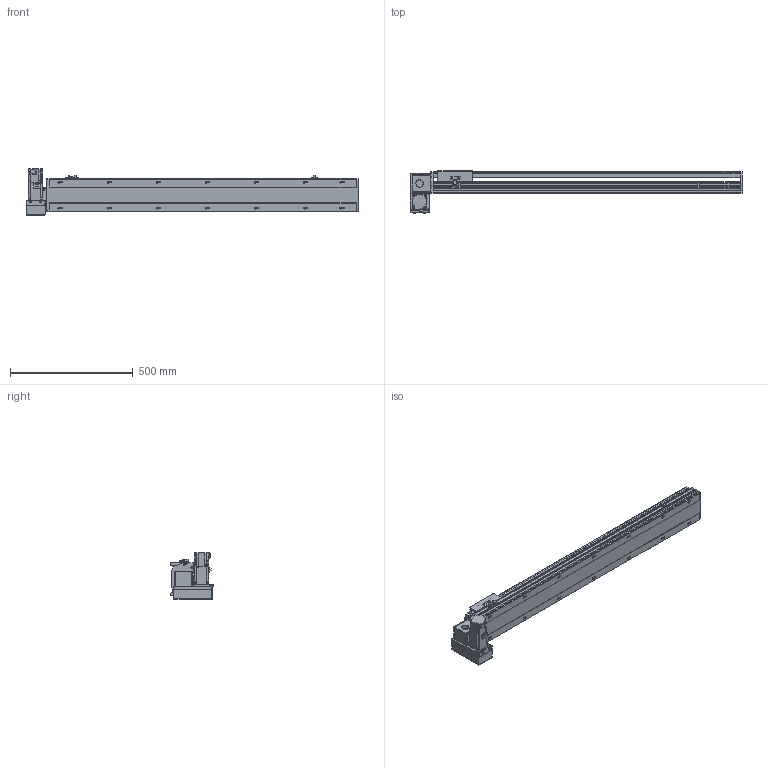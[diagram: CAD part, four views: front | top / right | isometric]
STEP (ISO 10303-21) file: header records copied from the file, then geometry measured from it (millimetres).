
FILE_DESCRIPTION( ( 'STEP AP214' ), '1' );
FILE_NAME( 'x:/temp/worker_6/temp/exporttempdir_5396_96_qXp1L/format_0/PBS140S-P40-S1000-LD-T40-C1-N(0).stp', '2022-06-09T00:24:47', ( 'License CC BY-ND 4.0' ), ( 'CADENAS' ), ' ', 'PARTsolutions', ' ' );
FILE_SCHEMA( ( 'AUTOMOTIVE_DESIGN { 1 0 10303 214 1 1 1 1 }' ) );
Length unit declared in the file: millimetre
Products named in the file (7): PBS140S-P40-S1000-LD-T40-C1-N(0); _PBS140S-S1000()_body; _PBS140ST-LD_motors; _T40-p1; _PBS140S_sliser; _PBS140S_plant; _PBS140S_sensor
Assembly tree (8 placements, depth 2):
  PBS140S-P40-S1000-LD-T40-C1-N(0)
    _PBS140S-S1000()_body
    _PBS140ST-LD_motors
    _T40-p1
    _PBS140S_sliser
    _PBS140S_plant
    _PBS140S_sensor  x3
Bounding box: 1354 x 172.5 x 189.7 mm (x, y, z)
Volume: 7039918.8 mm3; surface area: 1218909.5 mm2
Topology: 8 solids, 8 shells, 1083 faces, 2871 edges, 1879 vertices
Faces by surface type: plane 696, cylinder 337, cone 40, sphere 8, torus 2
Full cylindrical faces by diameter (mm): 3.242 x4, 4 x2, 4.134 x4, 4.4 x8, 4.5 x2, 4.8 x4, 4.917 x22, 5.5 x7, 6 x2, 7 x16, 7.5 x8, 8 x12, 8.5 x4, 10.5 x14, 14 x1, 30 x2, 50 x2
Entity records: 39694 total; most frequent: CARTESIAN_POINT 6238, DIRECTION 5278, ORIENTED_EDGE 5002, EDGE_CURVE 2501, AXIS2_PLACEMENT_3D 1829, VERTEX_POINT 1729, LINE 1620, VECTOR 1620
